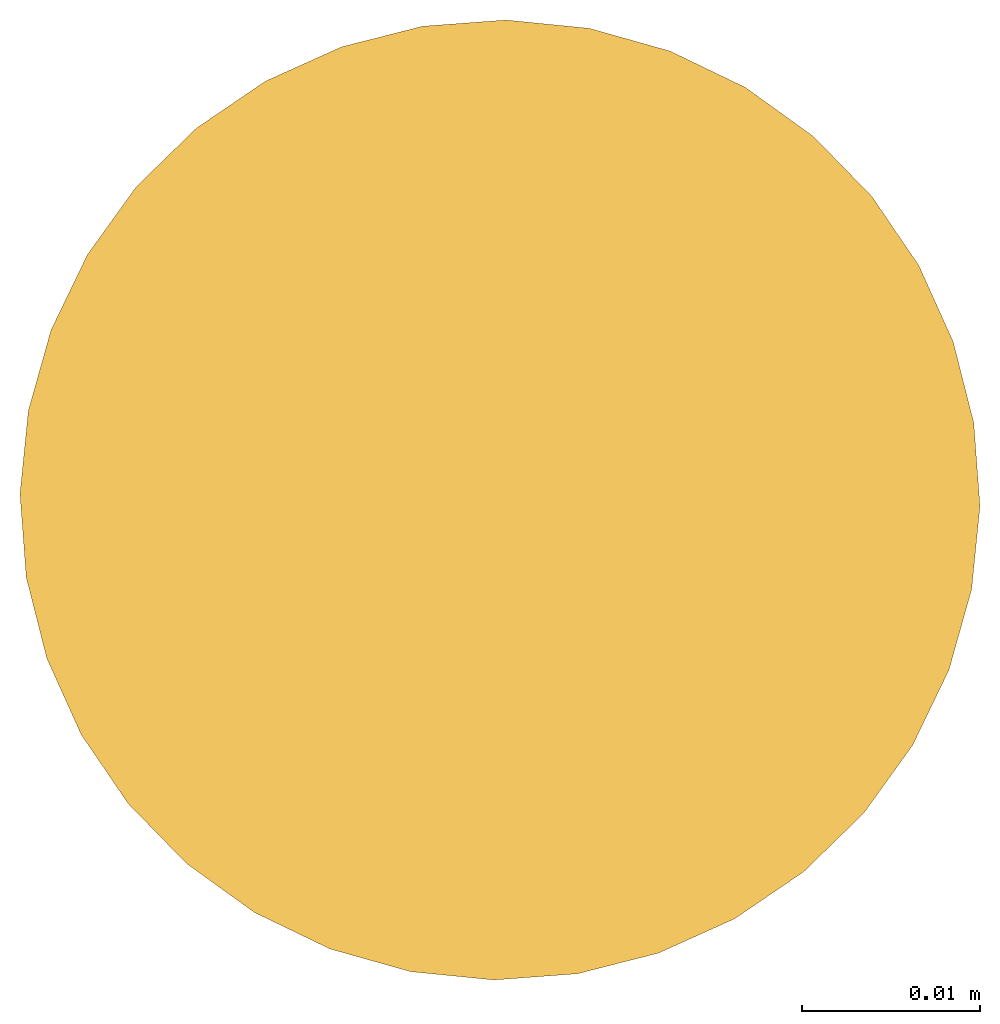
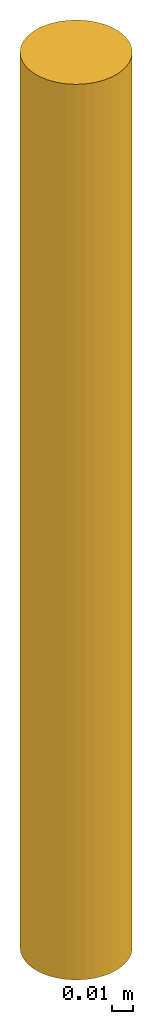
# One storey: 1 covering.
"""IFC2X3 building model written with IfcOpenShell, lengths in millimetres."""

from ifc_helpers import new_model, entity, si_unit, converted_unit, derived_unit, direction, frame, origin, origin_with_axes, place, context, subcontext, project, spatial, faceted_brep, type_object, element, save


model = new_model("IFC2X3")

# Units and contexts
model_context = context("Model", 3, precision=0.01, world=origin(), true_north=direction((6.12323399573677e-17, 1.0)))
plan_context = context("Plan", 3, precision=1e-05, world=origin_with_axes())
body_context = subcontext(model_context, "Body", "Model", "MODEL_VIEW")
ifc_project = project(units=[converted_unit("PLANEANGLEUNIT", "DEGREE", entity("IfcPositiveLengthMeasure", 0.0174532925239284), si_unit("PLANEANGLEUNIT", "RADIAN"), dimensions=[0, 0, 0, 0, 0, 0, 0]), si_unit("AREAUNIT", "SQUARE_METRE"), si_unit("LENGTHUNIT", "METRE", prefix="MILLI"), si_unit("MASSUNIT", "GRAM", prefix="KILO"), si_unit("POWERUNIT", "WATT"), si_unit("PRESSUREUNIT", "PASCAL", prefix="KILO"), si_unit("FORCEUNIT", "NEWTON", prefix="KILO"), si_unit("ELECTRICVOLTAGEUNIT", "VOLT"), si_unit("ELECTRICCURRENTUNIT", "AMPERE"), si_unit("THERMODYNAMICTEMPERATUREUNIT", "DEGREE_CELSIUS"), si_unit("TIMEUNIT", "SECOND"), si_unit("VOLUMEUNIT", "CUBIC_METRE"), derived_unit("LINEARVELOCITYUNIT", [(si_unit("LENGTHUNIT", "METRE"), 1), (si_unit("TIMEUNIT", "SECOND"), -1)]), derived_unit("VOLUMETRICFLOWRATEUNIT", [(si_unit("VOLUMEUNIT", "CUBIC_METRE"), 1), (si_unit("TIMEUNIT", "SECOND"), -1)]), derived_unit("THERMALTRANSMITTANCEUNIT", [(si_unit("POWERUNIT", "WATT"), 1), (si_unit("THERMODYNAMICTEMPERATUREUNIT", "KELVIN"), -1), (si_unit("AREAUNIT", "SQUARE_METRE"), -1)]), derived_unit("SOUNDPRESSUREUNIT", [(si_unit("PRESSUREUNIT", "PASCAL"), 1)])], contexts=[model_context, plan_context])

# Site, building, storey
site_placement = place(None, frame((-3.09682673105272e-06, 1.93776733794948e-05, 0.0), z_axis=(0.0, 0.0, 1.0), x_axis=(-0.160806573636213, 0.986985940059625, 0.0)))
site = spatial("IfcSite", under=ifc_project, at=site_placement, Name="Default", CompositionType="ELEMENT")
building_placement = place(site_placement, frame((0.0, 0.0, 0.0), z_axis=(0.0, 0.0, 1.0), x_axis=(1.0, -2.77555756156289e-17, 0.0)))
building = spatial("IfcBuilding", under=site, at=building_placement, Name="Bygning (endres i Project Information)", CompositionType="ELEMENT")
storey_placement = place(building_placement, frame((0.0, 0.0, 47799.999999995), z_axis=(0.0, 0.0, 1.0), x_axis=(1.0, -2.77555756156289e-17, 0.0)))
storey = spatial("IfcBuildingStorey", under=building, at=storey_placement, Name="U01-Nivå B+3,1m", CompositionType="ELEMENT", Elevation=47799.999999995)

# Covering
covering_type = type_object("IfcCoveringType", Name="Pipe Insulation:GLAVA kondensisol. slange økende 13mm (11,0-16,0)", PredefinedType="INSULATION")
covering_placement = place(storey_placement, frame((0.0, 0.0, 0.0), z_axis=(0.0, 0.0, 1.0), x_axis=(1.0, -2.77555756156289e-17, 0.0)))
element("IfcCovering", 1, at=covering_placement, inside=storey, type_object=covering_type, Name="Pipe Insulation:GLAVA kondensisol. slange økende 13mm (11,0-16,0)", ObjectType="Pipe Insulation:GLAVA kondensisol. slange økende 13mm (11,0-16,0)", PredefinedType="INSULATION", context=body_context, shape_type="Brep", body=[
    faceted_brep([(1004389.11179517, -384323.157958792, 6700.00000000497), (1004393.80029597, -384323.568149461, 6700.00000000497), (1004393.80029597, -384323.568149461, 7226.00000007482), (1004389.11179517, -384323.157958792, 7226.00000007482), (1004384.42329436, -384323.568149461, 6700.00000000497), (1004384.42329436, -384323.568149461, 7226.00000007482), (1004379.87725129, -384324.786258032, 6700.00000000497), (1004379.87725129, -384324.786258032, 7226.00000007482), (1004375.61179515, -384326.775272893, 6700.00000000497), (1004375.61179515, -384326.775272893, 7226.00000007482), (1004371.75652969, -384329.474758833, 6700.00000000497), (1004371.75652969, -384329.474758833, 7226.00000007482), (1004368.42859518, -384332.802693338, 6700.00000000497), (1004368.42859518, -384332.802693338, 7226.00000007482), (1004365.72910924, -384336.657958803, 6700.00000000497), (1004365.72910924, -384336.657958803, 7226.00000007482), (1004363.74009438, -384340.923414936, 6700.00000000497), (1004363.74009438, -384340.923414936, 7226.00000007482), (1004362.52198581, -384345.469458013, 6700.00000000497), (1004362.52198581, -384345.469458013, 7226.00000007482), (1004362.11179514, -384350.157958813, 6700.00000000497), (1004362.11179514, -384350.157958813, 7226.00000007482), (1004362.52198581, -384354.846459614, 6700.00000000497), (1004362.52198581, -384354.846459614, 7226.00000007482), (1004363.74009438, -384359.39250269, 6700.00000000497), (1004363.74009438, -384359.39250269, 7226.00000007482), (1004365.72910924, -384363.657958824, 6700.00000000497), (1004365.72910924, -384363.657958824, 7226.00000007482), (1004368.42859518, -384367.513224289, 6700.00000000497), (1004368.42859518, -384367.513224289, 7226.00000007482), (1004371.75652969, -384370.841158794, 6700.00000000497), (1004371.75652969, -384370.841158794, 7226.00000007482), (1004375.61179515, -384373.540644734, 6700.00000000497), (1004375.61179515, -384373.540644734, 7226.00000007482), (1004379.87725129, -384375.529659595, 6700.00000000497), (1004379.87725129, -384375.529659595, 7226.00000007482), (1004384.42329436, -384376.747768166, 6700.00000000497), (1004384.42329436, -384376.747768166, 7226.00000007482), (1004389.11179517, -384377.157958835, 6700.00000000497), (1004389.11179517, -384377.157958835, 7226.00000007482), (1004393.80029597, -384376.747768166, 6700.00000000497), (1004393.80029597, -384376.747768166, 7226.00000007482), (1004398.34633904, -384375.529659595, 6700.00000000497), (1004398.34633904, -384375.529659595, 7226.00000007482), (1004402.61179518, -384373.540644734, 6700.00000000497), (1004402.61179518, -384373.540644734, 7226.00000007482), (1004406.46706064, -384370.841158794, 6700.00000000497), (1004406.46706064, -384370.841158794, 7226.00000007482), (1004409.79499515, -384367.513224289, 6700.00000000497), (1004409.79499515, -384367.513224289, 7226.00000007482), (1004412.49448109, -384363.657958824, 6700.00000000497), (1004412.49448109, -384363.657958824, 7226.00000007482), (1004414.48349595, -384359.39250269, 6700.00000000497), (1004414.48349595, -384359.39250269, 7226.00000007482), (1004415.70160452, -384354.846459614, 6700.00000000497), (1004415.70160452, -384354.846459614, 7226.00000007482), (1004416.11179519, -384350.157958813, 6700.00000000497), (1004416.11179519, -384350.157958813, 7226.00000007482), (1004415.70160452, -384345.469458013, 6700.00000000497), (1004415.70160452, -384345.469458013, 7226.00000007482), (1004414.48349595, -384340.923414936, 6700.00000000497), (1004414.48349595, -384340.923414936, 7226.00000007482), (1004412.49448109, -384336.657958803, 6700.00000000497), (1004412.49448109, -384336.657958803, 7226.00000007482), (1004409.79499515, -384332.802693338, 6700.00000000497), (1004409.79499515, -384332.802693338, 7226.00000007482), (1004406.46706064, -384329.474758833, 6700.00000000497), (1004406.46706064, -384329.474758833, 7226.00000007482), (1004402.61179518, -384326.775272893, 6700.00000000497), (1004402.61179518, -384326.775272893, 7226.00000007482), (1004398.34633904, -384324.786258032, 6700.00000000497), (1004398.34633904, -384324.786258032, 7226.00000007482)], [[[0, 1, 2, 3]], [[4, 0, 3, 5]], [[6, 4, 5, 7]], [[8, 6, 7, 9]], [[10, 8, 9, 11]], [[12, 10, 11, 13]], [[14, 12, 13, 15]], [[16, 14, 15, 17]], [[18, 16, 17, 19]], [[20, 18, 19, 21]], [[22, 20, 21, 23]], [[24, 22, 23, 25]], [[26, 24, 25, 27]], [[28, 26, 27, 29]], [[30, 28, 29, 31]], [[32, 30, 31, 33]], [[34, 32, 33, 35]], [[36, 34, 35, 37]], [[38, 36, 37, 39]], [[40, 38, 39, 41]], [[42, 40, 41, 43]], [[44, 42, 43, 45]], [[46, 44, 45, 47]], [[48, 46, 47, 49]], [[50, 48, 49, 51]], [[52, 50, 51, 53]], [[54, 52, 53, 55]], [[56, 54, 55, 57]], [[58, 56, 57, 59]], [[60, 58, 59, 61]], [[62, 60, 61, 63]], [[64, 62, 63, 65]], [[66, 64, 65, 67]], [[68, 66, 67, 69]], [[70, 68, 69, 71]], [[1, 70, 71, 2]], [[3, 2, 71, 69, 67, 65, 63, 61, 59, 57, 55, 53, 51, 49, 47, 45, 43, 41, 39, 37, 35, 33, 31, 29, 27, 25, 23, 21, 19, 17, 15, 13, 11, 9, 7, 5]], [[4, 6, 8, 10, 12, 14, 16, 18, 20, 22, 24, 26, 28, 30, 32, 34, 36, 38, 40, 42, 44, 46, 48, 50, 52, 54, 56, 58, 60, 62, 64, 66, 68, 70, 1, 0]]], orient=[[False], [False], [False], [False], [False], [False], [False], [False], [False], [False], [False], [False], [False], [False], [False], [False], [False], [False], [False], [False], [False], [False], [False], [False], [False], [False], [False], [False], [False], [False], [False], [False], [False], [False], [False], [False], [False], [False]]),
])

save(model, "model.ifc")
